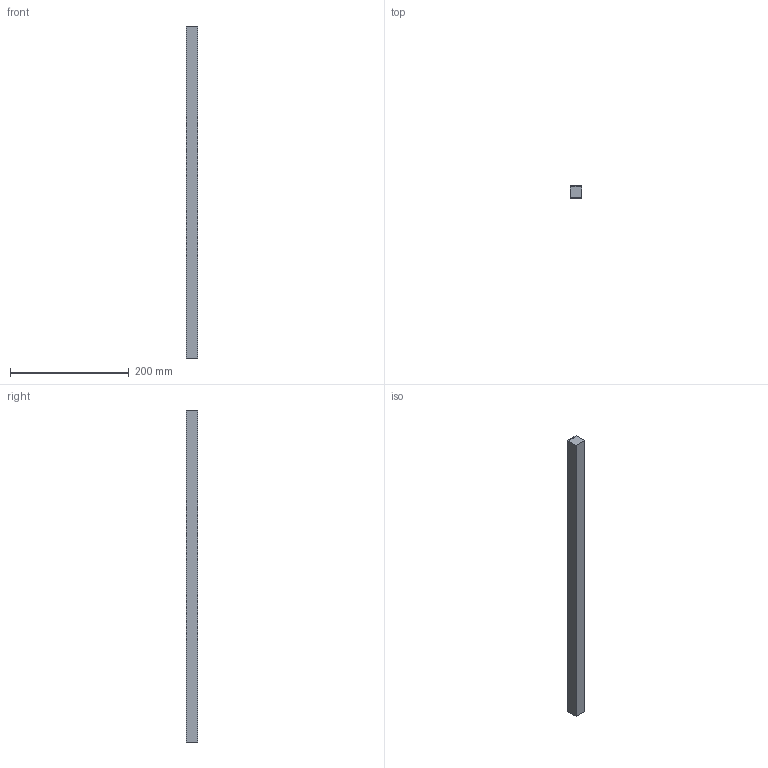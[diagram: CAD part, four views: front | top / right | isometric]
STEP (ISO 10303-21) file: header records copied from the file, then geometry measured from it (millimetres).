
FILE_DESCRIPTION (( 'STEP AP214' ), '1' );
FILE_NAME ('56.STEP', '2018-03-02T14:49:31', ( 'Utente' ), ( '' ), 'SwSTEP 2.0', 'SolidWorks 2016', '' );
FILE_SCHEMA (( 'AUTOMOTIVE_DESIGN' ));
Length unit declared in the file: millimetre
Products named in the file (3): schermo tru sospesaMARTI-1^56; profili - spigoloMARTI-1^56; 56
Assembly tree (2 placements, depth 2):
  56
    profili - spigoloMARTI-1^56
    schermo tru sospesaMARTI-1^56
Bounding box: 20 x 20 x 560 mm (x, y, z)
Volume: 216272 mm3; surface area: 65017 mm2
Topology: 2 solids, 2 shells, 18 faces, 42 edges, 28 vertices
Faces by surface type: plane 18
Entity records: 627 total; most frequent: CARTESIAN_POINT 93, DIRECTION 88, ORIENTED_EDGE 84, EDGE_CURVE 42, VECTOR 42, LINE 42, VERTEX_POINT 28, AXIS2_PLACEMENT_3D 23
